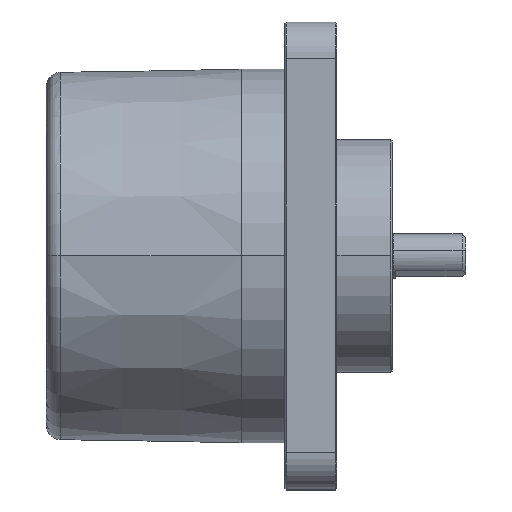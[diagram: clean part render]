
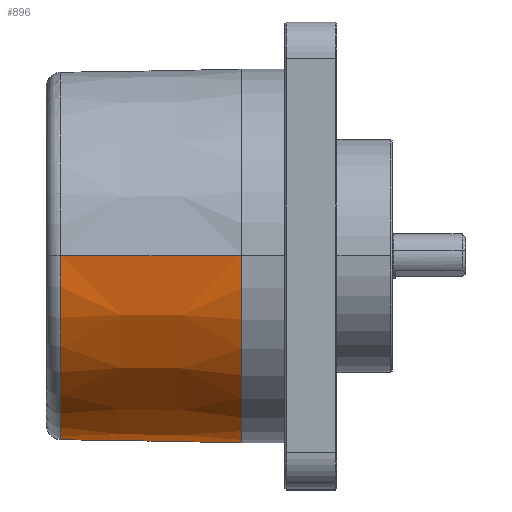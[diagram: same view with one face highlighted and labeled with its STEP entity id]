
A CAD part, top view. The second image highlights one B-rep face of the part: STEP entity #896.
In plain terms, the highlighted conical face has half-angle 1 degrees and reference radius 25.4 mm.
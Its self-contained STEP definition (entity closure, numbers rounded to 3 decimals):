
#896 = ADVANCED_FACE ( 'NONE', ( #6449 ), #6427, .T. ) ;
#897 = EDGE_LOOP ( 'NONE', ( #898, #899, #990, #993, #996, #998 ) ) ;
#898 = ORIENTED_EDGE ( 'NONE', *, *, #3299, .F. ) ;
#899 = ORIENTED_EDGE ( 'NONE', *, *, #988, .T. ) ;
#947 = EDGE_CURVE ( 'NONE', #948, #3300, #6550, .T. ) ;
#948 = VERTEX_POINT ( 'NONE', #6545 ) ;
#988 = EDGE_CURVE ( 'NONE', #3163, #989, #6723, .T. ) ;
#989 = VERTEX_POINT ( 'NONE', #6714 ) ;
#990 = ORIENTED_EDGE ( 'NONE', *, *, #991, .T. ) ;
#991 = EDGE_CURVE ( 'NONE', #989, #992, #6712, .T. ) ;
#992 = VERTEX_POINT ( 'NONE', #6713 ) ;
#993 = ORIENTED_EDGE ( 'NONE', *, *, #994, .F. ) ;
#994 = EDGE_CURVE ( 'NONE', #995, #992, #6707, .T. ) ;
#995 = VERTEX_POINT ( 'NONE', #6706 ) ;
#996 = ORIENTED_EDGE ( 'NONE', *, *, #997, .T. ) ;
#997 = EDGE_CURVE ( 'NONE', #995, #948, #6755, .T. ) ;
#998 = ORIENTED_EDGE ( 'NONE', *, *, #947, .T. ) ;
#3163 = VERTEX_POINT ( 'NONE', #15670 ) ;
#3299 = EDGE_CURVE ( 'NONE', #3163, #3300, #16097, .T. ) ;
#3300 = VERTEX_POINT ( 'NONE', #16093 ) ;
#6424 = DIRECTION ( 'NONE',  ( 0., 0., 1. ) ) ;
#6425 = DIRECTION ( 'NONE',  ( 1., 0., 0. ) ) ;
#6426 = AXIS2_PLACEMENT_3D ( 'NONE', #6428, #6425, #6424 ) ;
#6427 = CONICAL_SURFACE ( 'NONE', #6426, 25.4, 0.017 ) ;
#6428 = CARTESIAN_POINT ( 'NONE',  ( 5.5, 0., 0. ) ) ;
#6449 = FACE_OUTER_BOUND ( 'NONE', #897, .T. ) ;
#6545 = CARTESIAN_POINT ( 'NONE',  ( 5.5, -12.989, -21.828 ) ) ;
#6546 = DIRECTION ( 'NONE',  ( 0., 0., -1. ) ) ;
#6547 = DIRECTION ( 'NONE',  ( -1., 0., 0. ) ) ;
#6548 = CARTESIAN_POINT ( 'NONE',  ( 5.5, 0., 0. ) ) ;
#6549 = AXIS2_PLACEMENT_3D ( 'NONE', #6548, #6547, #6546 ) ;
#6550 = CIRCLE ( 'NONE', #6549, 25.4 ) ;
#6704 = CARTESIAN_POINT ( 'NONE',  ( -4.001, -16.45, -19.137 ) ) ;
#6705 = CARTESIAN_POINT ( 'NONE',  ( 3.5, -16.319, -19.418 ) ) ;
#6706 = CARTESIAN_POINT ( 'NONE',  ( 3.5, -16.319, -19.418 ) ) ;
#6707 = B_SPLINE_CURVE_WITH_KNOTS ( 'NONE', 3,
 ( #6705, #6704, #6759, #6758 ),
 .UNSPECIFIED., .F., .F.,
 ( 4, 4 ),
 ( 0.002, 0.025 ),
 .UNSPECIFIED. ) ;
#6708 = CARTESIAN_POINT ( 'NONE',  ( -19., -16.728, -18.542 ) ) ;
#6709 = CARTESIAN_POINT ( 'NONE',  ( -19.012, -16.728, -18.541 ) ) ;
#6710 = CARTESIAN_POINT ( 'NONE',  ( -19.023, -16.728, -18.541 ) ) ;
#6711 = CARTESIAN_POINT ( 'NONE',  ( -19.035, -16.728, -18.541 ) ) ;
#6712 = B_SPLINE_CURVE_WITH_KNOTS ( 'NONE', 3,
 ( #6711, #6710, #6709, #6708 ),
 .UNSPECIFIED., .F., .F.,
 ( 4, 4 ),
 ( 0., 0. ),
 .UNSPECIFIED. ) ;
#6713 = CARTESIAN_POINT ( 'NONE',  ( -19., -16.728, -18.542 ) ) ;
#6714 = CARTESIAN_POINT ( 'NONE',  ( -19.035, -16.728, -18.541 ) ) ;
#6715 = DIRECTION ( 'NONE',  ( 0., 0., -1. ) ) ;
#6716 = DIRECTION ( 'NONE',  ( 1., 0., 0. ) ) ;
#6717 = CARTESIAN_POINT ( 'NONE',  ( -19.035, 0., 0. ) ) ;
#6718 = AXIS2_PLACEMENT_3D ( 'NONE', #6717, #6716, #6715 ) ;
#6723 = CIRCLE ( 'NONE', #6718, 24.972 ) ;
#6730 = CARTESIAN_POINT ( 'NONE',  ( 5.5, -12.989, -21.828 ) ) ;
#6731 = CARTESIAN_POINT ( 'NONE',  ( 5.5, -13.341, -21.618 ) ) ;
#6732 = CARTESIAN_POINT ( 'NONE',  ( 5.461, -13.682, -21.403 ) ) ;
#6733 = CARTESIAN_POINT ( 'NONE',  ( 5.317, -14.347, -20.96 ) ) ;
#6734 = CARTESIAN_POINT ( 'NONE',  ( 5.21, -14.672, -20.731 ) ) ;
#6735 = CARTESIAN_POINT ( 'NONE',  ( 4.995, -15.13, -20.392 ) ) ;
#6736 = CARTESIAN_POINT ( 'NONE',  ( 4.914, -15.278, -20.28 ) ) ;
#6737 = CARTESIAN_POINT ( 'NONE',  ( 4.727, -15.562, -20.058 ) ) ;
#6738 = CARTESIAN_POINT ( 'NONE',  ( 4.62, -15.701, -19.947 ) ) ;
#6739 = CARTESIAN_POINT ( 'NONE',  ( 4.436, -15.89, -19.792 ) ) ;
#6740 = CARTESIAN_POINT ( 'NONE',  ( 4.37, -15.95, -19.742 ) ) ;
#6741 = CARTESIAN_POINT ( 'NONE',  ( 4.228, -16.062, -19.648 ) ) ;
#6742 = CARTESIAN_POINT ( 'NONE',  ( 4.151, -16.115, -19.603 ) ) ;
#6743 = CARTESIAN_POINT ( 'NONE',  ( 3.902, -16.252, -19.484 ) ) ;
#6744 = CARTESIAN_POINT ( 'NONE',  ( 3.708, -16.315, -19.426 ) ) ;
#6745 = CARTESIAN_POINT ( 'NONE',  ( 3.5, -16.319, -19.418 ) ) ;
#6755 = B_SPLINE_CURVE_WITH_KNOTS ( 'NONE', 3,
 ( #6745, #6744, #6743, #6742, #6741, #6740, #6739, #6738, #6737, #6736, #6735, #6734, #6733, #6732, #6731, #6730 ),
 .UNSPECIFIED., .F., .F.,
 ( 4, 2, 2, 2, 2, 2, 2, 4 ),
 ( 0., 0.001, 0.001, 0.001, 0.002, 0.002, 0.004, 0.005 ),
 .UNSPECIFIED. ) ;
#6758 = CARTESIAN_POINT ( 'NONE',  ( -19., -16.728, -18.542 ) ) ;
#6759 = CARTESIAN_POINT ( 'NONE',  ( -11.501, -16.586, -18.846 ) ) ;
#15670 = CARTESIAN_POINT ( 'NONE',  ( -19.035, 0., 24.972 ) ) ;
#16093 = CARTESIAN_POINT ( 'NONE',  ( 5.5, 0., 25.4 ) ) ;
#16094 = DIRECTION ( 'NONE',  ( 1., 0., 0.017 ) ) ;
#16095 = VECTOR ( 'NONE', #16094, 1000. ) ;
#16096 = CARTESIAN_POINT ( 'NONE',  ( 5.5, 0., 25.4 ) ) ;
#16097 = LINE ( 'NONE', #16096, #16095 ) ;
